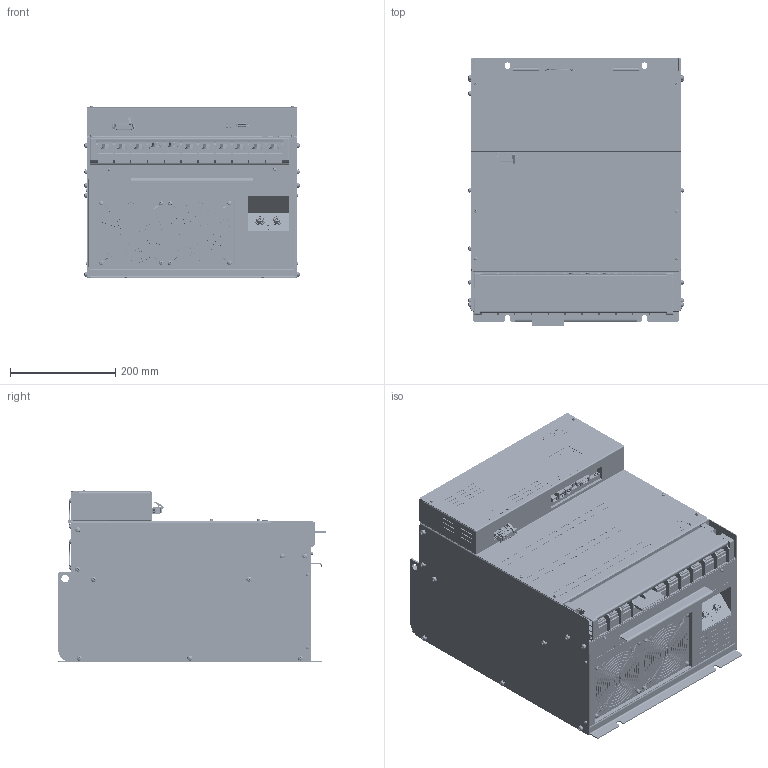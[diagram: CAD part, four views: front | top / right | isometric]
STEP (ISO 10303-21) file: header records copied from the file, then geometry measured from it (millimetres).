
FILE_DESCRIPTION (( 'STEP AP203' ), '1' );
FILE_NAME ('NCR-HD2-3_373#SE-83772.STEP', '2021-07-08T05:24:35', ( '' ), ( '' ), 'SwSTEP 2.0', 'SolidWorks 2018', '' );
FILE_SCHEMA (( 'CONFIG_CONTROL_DESIGN' ));
Length unit declared in the file: millimetre
Products named in the file (1): NCR-HD2-3_373#SE-83772
Bounding box: 409.06 x 508 x 327.95 mm (x, y, z)
Volume: 50156889.6 mm3; surface area: 1548059.5 mm2
Topology: 4 solids, 47 shells, 17535 faces, 48005 edges, 31002 vertices
Faces by surface type: plane 11392, cylinder 2783, bspline 1817, cone 1211, torus 242, sphere 90
Entity records: 617592 total; most frequent: CARTESIAN_POINT 179474, ORIENTED_EDGE 95798, DIRECTION 84274, EDGE_CURVE 47899, LINE 32782, VECTOR 32782, VERTEX_POINT 31002, AXIS2_PLACEMENT_3D 25746
